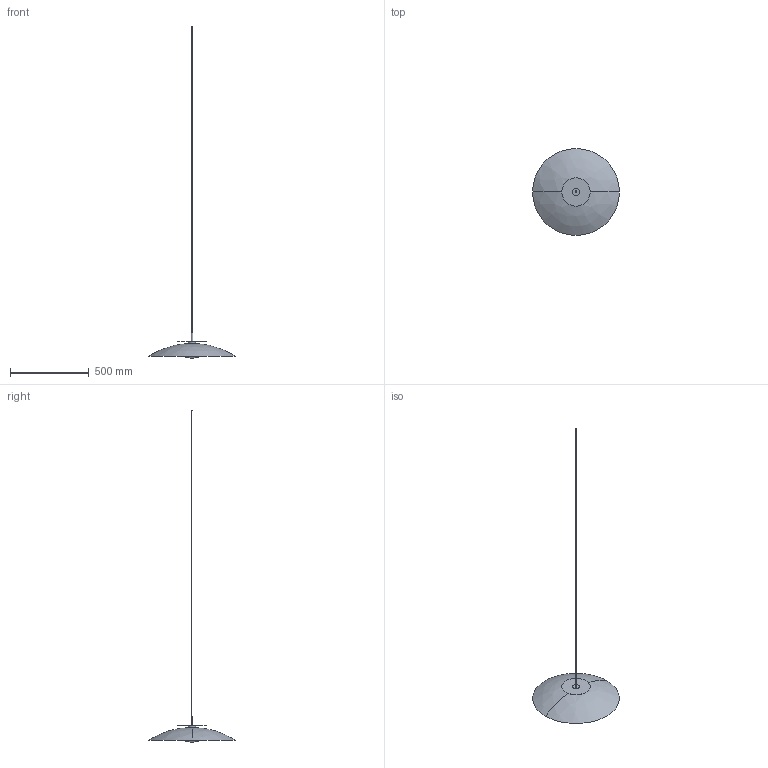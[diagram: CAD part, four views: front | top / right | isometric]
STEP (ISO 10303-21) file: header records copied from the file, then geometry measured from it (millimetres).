
FILE_DESCRIPTION(/* description */ (''),/* implementation_level */ '2;1');
FILE_NAME(/* name */ 'ILKW_SATURN55_V2_Pendant_3D',/* time_stamp */ '2026-08-28T16:15:24+09:00',/* author */ (''),/* organization */ (''),/* preprocessor_version */ 'ST-DEVELOPER v19.2',/* originating_system */ 'Rhino 8.21',/* authorisation */ '');
FILE_SCHEMA (('CONFIG_CONTROL_DESIGN'));
Length unit declared in the file: millimetre
Products named in the file (1): Document
Bounding box: 550.7 x 550.7 x 2103.8 mm (x, y, z)
Volume: 56548.7 mm3; surface area: 384489 mm2
Topology: 1 solids, 4 shells, 27 faces, 54 edges, 34 vertices
Faces by surface type: cylinder 14, plane 7, bspline 6
Entity records: 938 total; most frequent: CARTESIAN_POINT 347, ORIENTED_EDGE 100, DIRECTION 87, EDGE_CURVE 54, AXIS2_PLACEMENT_3D 54, VERTEX_POINT 34, TRIMMED_CURVE 30, CIRCLE 30
